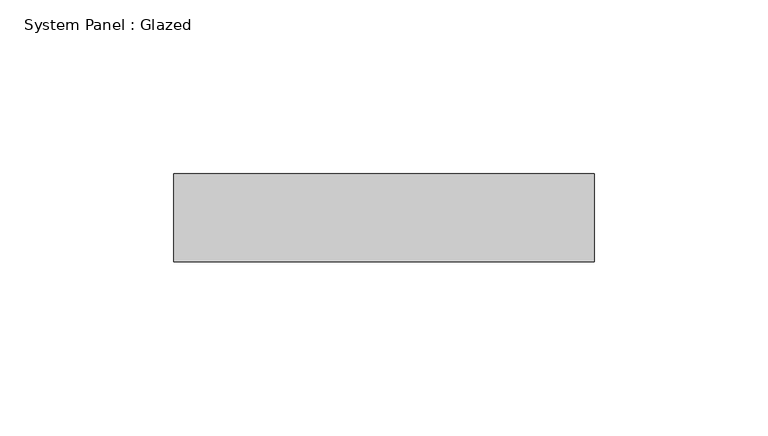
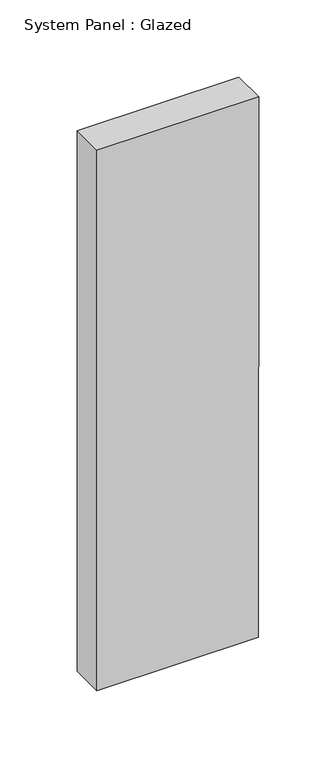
"""IFC4 building model written with IfcOpenShell, lengths in millimetres: plate geometry, System Panel : Glazed."""

from ifc_helpers import new_model, si_unit, frame, origin, place, context, project, spatial, polyline, outline, extrude, source, transform, mapped, element, save


def system_panel_glazed_1107621f(model_context):
    return source(origin(), model_context, "Body", "SweptSolid", [
        extrude(outline(polyline([(0.0, -60.3755725), (0.0, 60.3755725), (427.6723343, 60.5245202), (427.6723343, -60.5245202), (0.0, -60.3755725)])), frame((0.0, -44.45, 0.0), z_axis=(0.0, 1.0, 0.0), x_axis=(0.0, 0.0, 1.0)), (0.0, 0.0, 1.0), 25.4),
    ])


if __name__ == "__main__":
    model = new_model("IFC4")
    model_context = context("Model", 3, world=origin())
    ifc_project = project(units=[si_unit("LENGTHUNIT", "METRE", prefix="MILLI")], contexts=[model_context])
    site = spatial("IfcSite", under=ifc_project)
    building = spatial("IfcBuilding", under=site)
    placement = place(None, origin())
    system_panel_glazed_shape = system_panel_glazed_1107621f(model_context)
    element("IfcPlate", 1, ObjectType="System Panel : Glazed", at=placement, inside=building, context=model_context, shape_type="MappedRepresentation", body=[
        mapped(system_panel_glazed_shape, transform((0.0, 0.0, 0.0), x_axis=(1.0, 0.0, 0.0), y_axis=(0.0, 1.0, 0.0), z_axis=(0.0, 0.0, 1.0))),
    ])
    save(model, "model.ifc")
